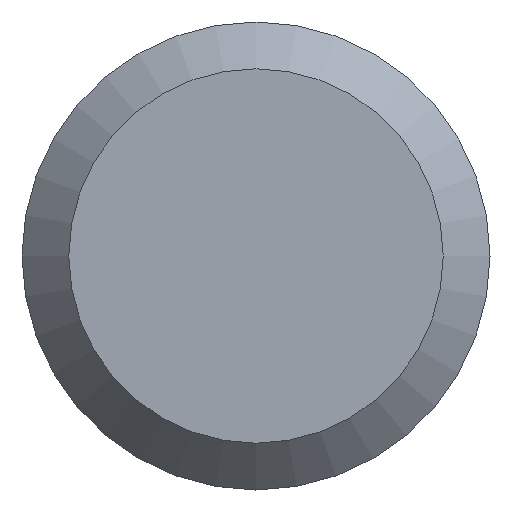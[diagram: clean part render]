
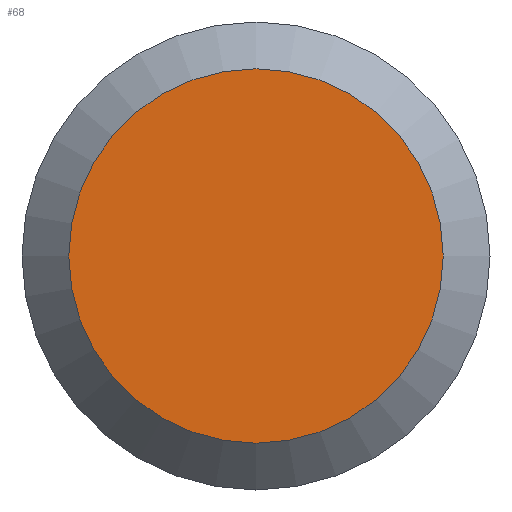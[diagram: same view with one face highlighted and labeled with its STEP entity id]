
A CAD part, left-side view. The second image highlights one B-rep face of the part: STEP entity #68.
In plain terms, the highlighted planar face has unit normal (-1, 0, 0).
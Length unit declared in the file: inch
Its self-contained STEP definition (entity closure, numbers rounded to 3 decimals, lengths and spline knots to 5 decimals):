
#4 = CARTESIAN_POINT ( 'NONE',  ( 0., 0.09375, 0. ) ) ;
#15 = CARTESIAN_POINT ( 'NONE',  ( 0., 0., -0.075 ) ) ;
#16 = ORIENTED_EDGE ( 'NONE', *, *, #224, .T. ) ;
#41 = AXIS2_PLACEMENT_3D ( 'NONE', #218, #51, #72 ) ;
#51 = DIRECTION ( 'NONE',  ( -1., 0., 0. ) ) ;
#68 = ADVANCED_FACE ( 'NONE', ( #230 ), #203, .F. ) ;
#72 = DIRECTION ( 'NONE',  ( 0., 0., -1. ) ) ;
#99 = CIRCLE ( 'NONE', #41, 0.075 ) ;
#117 = DIRECTION ( 'NONE',  ( 1., 0., 0. ) ) ;
#121 = EDGE_LOOP ( 'NONE', ( #16 ) ) ;
#141 = DIRECTION ( 'NONE',  ( 0., 0., -1. ) ) ;
#189 = AXIS2_PLACEMENT_3D ( 'NONE', #4, #117, #141 ) ;
#203 = PLANE ( 'NONE',  #189 ) ;
#218 = CARTESIAN_POINT ( 'NONE',  ( 0., 0., 0. ) ) ;
#224 = EDGE_CURVE ( 'NONE', #245, #245, #99, .T. ) ;
#230 = FACE_OUTER_BOUND ( 'NONE', #121, .T. ) ;
#245 = VERTEX_POINT ( 'NONE', #15 ) ;
